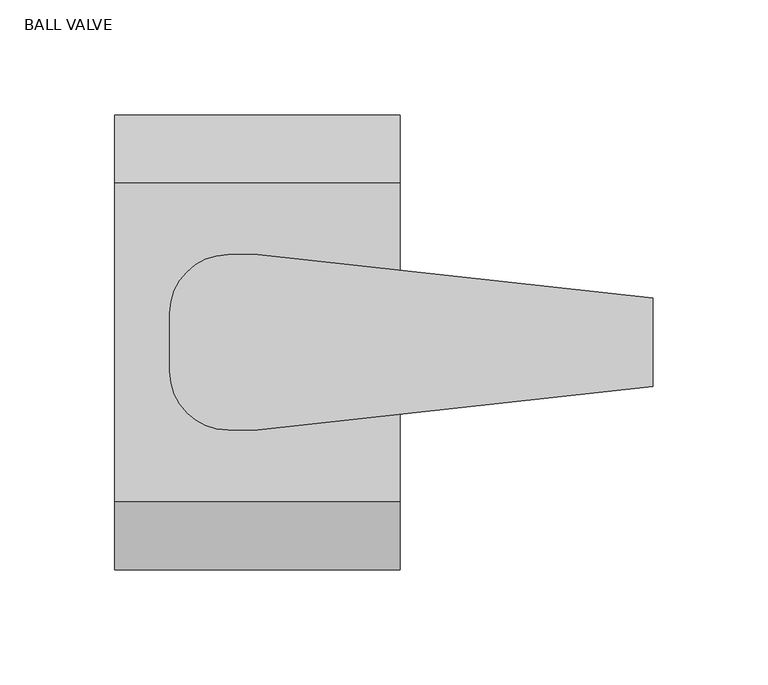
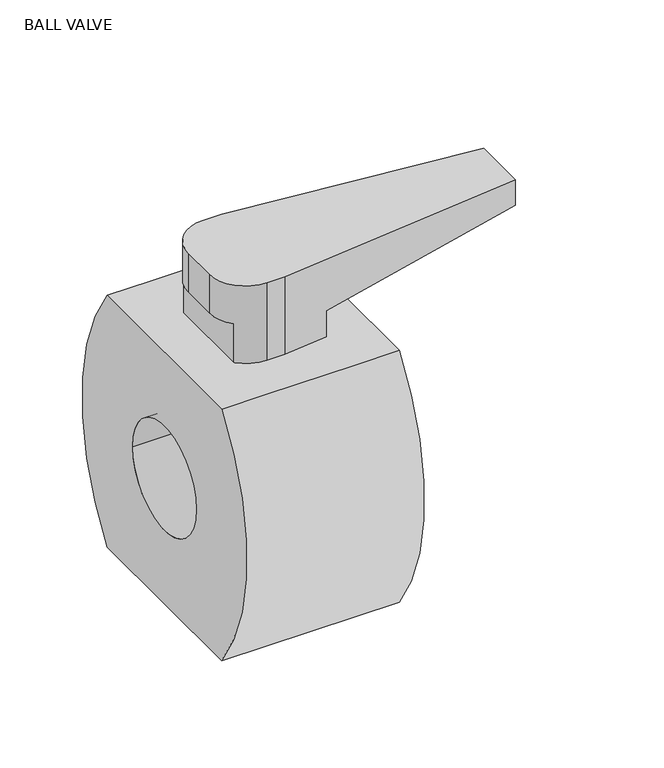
"""IFC4 building model written with IfcOpenShell, lengths in millimetres: valve geometry, Aquatherm - Ball Valve : BALL VALVE."""

from ifc_helpers import new_model, si_unit, frame, origin, place, context, project, spatial, polyline, circle_curve, source, transform, mapped, element, save
from ifc_brep_helpers import plane_surface, cylinder_surface, revolved_surface, advanced_brep


def ball_valve_f9bcd654(model_context):
    return source(origin(), model_context, "Body", "AdvancedBrep", [
        advanced_brep(
        [(0.0, 38.1, 150.114), (-12.70508, 38.1, 150.114), (-38.10508, 12.7, 150.114), (-38.10508, -12.7, 150.114), (-12.70508, -38.1, 150.114), (0.0, -38.1, 150.114), (171.95292, -19.1539441, 150.114), (171.95292, 19.1539441, 150.114), (0.0, -38.1, 92.964), (-12.70508, -38.1, 92.964), (-30.988, -30.3322102, 92.964), (-30.988, 30.3322102, 92.964), (-12.70508, 38.1, 92.964), (0.0, 38.1, 92.964), (30.988, 34.6856911, 92.964), (30.988, -34.6856911, 92.964), (-30.988, 30.3322102, 121.539), (-38.10508, 12.7, 121.539), (-38.10508, -12.7, 121.539), (-30.988, -30.3322102, 121.539), (30.988, -34.6856911, 112.014), (171.95292, -19.1539441, 131.064), (171.95292, 19.1539441, 131.064), (30.988, 34.6856911, 112.014)],
        [
            (0, 1),
            (1, 2, circle_curve(frame((-12.70508, 12.7, 150.114), z_axis=(0.0, 0.0, 1.0), x_axis=(0.0, 1.0, 0.0)), 25.4)),
            (2, 3),
            (3, 4, circle_curve(frame((-12.70508, -12.7, 150.114), z_axis=(0.0, 0.0, 1.0), x_axis=(0.0, 1.0, 0.0)), 25.4)),
            (4, 5),
            (5, 6),
            (6, 7),
            (7, 0),
            (8, 9),
            (9, 10, circle_curve(frame((-12.70508, -12.7, 92.964), z_axis=(0.0, 0.0, -1.0), x_axis=(0.0, 1.0, 0.0)), 25.4)),
            (10, 11),
            (11, 12, circle_curve(frame((-12.70508, 12.7, 92.964), z_axis=(0.0, 0.0, -1.0), x_axis=(0.0, 1.0, 0.0)), 25.4)),
            (12, 13),
            (13, 14),
            (14, 15),
            (15, 8),
            (0, 13),
            (12, 1),
            (11, 16),
            (16, 17, circle_curve(frame((-12.70508, 12.7, 121.539), z_axis=(0.0, 0.0, 1.0), x_axis=(0.0, 1.0, 0.0)), 25.4)),
            (17, 2),
            (17, 18),
            (18, 3),
            (18, 19, circle_curve(frame((-12.70508, -12.7, 121.539), z_axis=(0.0, 0.0, 1.0), x_axis=(0.0, 1.0, 0.0)), 25.4)),
            (19, 10),
            (9, 4),
            (8, 5),
            (15, 20),
            (20, 21),
            (21, 6),
            (21, 22),
            (22, 7),
            (22, 23),
            (23, 14),
            (19, 16),
            (20, 23),
        ],
        [
            plane_surface(frame((-12.70508, 38.1, 150.114), z_axis=(0.0, 0.0, 1.0), x_axis=(-1.0, 0.0, 0.0))),
            plane_surface(frame((-12.70508, 38.1, 92.964), z_axis=(0.0, 0.0, -1.0), x_axis=(1.0, 0.0, 0.0))),
            plane_surface(frame((0.0, 38.1, 150.114), z_axis=(0.0, 1.0, 0.0), x_axis=(0.0, 0.0, -1.0))),
            cylinder_surface(frame((-12.70508, 12.7, 92.964), z_axis=(0.0, 0.0, 1.0), x_axis=(0.0, 1.0, 0.0)), 25.4),
            plane_surface(frame((-38.10508, 12.7, 150.114), z_axis=(-1.0, 0.0, 0.0), x_axis=(0.0, 0.0, -1.0))),
            cylinder_surface(frame((-12.70508, -12.7, 92.964), z_axis=(0.0, 0.0, 1.0), x_axis=(0.0, 1.0, 0.0)), 25.4),
            plane_surface(frame((-12.70508, -38.1, 150.114), z_axis=(0.0, -1.0, 0.0), x_axis=(0.0, 0.0, -1.0))),
            plane_surface(frame((0.0, -38.1, 150.114), z_axis=(0.10951887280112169, -0.9939847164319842, 0.0), x_axis=(0.0, 0.0, -1.0))),
            plane_surface(frame((171.95292, -19.1539441, 150.114), z_axis=(1.0, 0.0, 0.0), x_axis=(0.0, 0.0, -1.0))),
            plane_surface(frame((171.95292, 19.1539441, 150.114), z_axis=(0.10951887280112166, 0.9939847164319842, 0.0), x_axis=(0.0, 0.0, -1.0))),
            plane_surface(frame((-30.988, -304.8, 92.964), z_axis=(-1.0, 0.0, 0.0), x_axis=(0.0, 1.0, 0.0))),
            plane_surface(frame((-30.988, -304.8, 121.539), z_axis=(0.0, 0.0, -1.0), x_axis=(0.0, 1.0, 0.0))),
            plane_surface(frame((171.95292, -304.8, 131.064), z_axis=(0.1339226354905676, 0.0, -0.9909917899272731), x_axis=(0.0, 1.0, 0.0))),
            plane_surface(frame((30.988, -304.8, 112.014), z_axis=(1.0, 0.0, 0.0), x_axis=(0.0, 1.0, 0.0))),
        ],
        [
            (0, [[1, 2, 3, 4, 5, 6, 7, 8]]),
            (1, [[9, 10, 11, 12, 13, 14, 15, 16]]),
            (2, [[-1, 17, -13, 18]]),
            (3, [[-2, -18, -12, 19, 20, 21]]),
            (4, [[-3, -21, 22, 23]]),
            (5, [[-4, -23, 24, 25, -10, 26]]),
            (6, [[-5, -26, -9, 27]]),
            (7, [[-6, -27, -16, 28, 29, 30]]),
            (8, [[-7, -30, 31, 32]]),
            (9, [[-8, -32, 33, 34, -14, -17]]),
            (10, [[35, -19, -11, -25]]),
            (11, [[-35, -24, -22, -20]]),
            (12, [[36, -33, -31, -29]]),
            (13, [[-36, -28, -15, -34]]),
        ],
    ),
        advanced_brep(
        [(61.976, -69.200726, 92.964), (61.976, -69.200726, -92.964), (61.976, 69.200726, -92.964), (61.976, 69.200726, 92.964), (61.976, -38.481, 0.0), (61.976, 38.481, 0.0), (-61.976, -69.200726, 92.964), (-61.976, 69.200726, 92.964), (-61.976, 69.200726, -92.964), (-61.976, -69.200726, -92.964), (-61.976, -38.481, 0.0), (-61.976, 38.481, 0.0), (30.988, 69.200726, 92.964), (-30.988, 69.200726, 92.964), (-30.988, -69.200726, 92.964), (30.988, -69.200726, 92.964)],
        [
            (0, 1, circle_curve(frame((61.976, 57.912, 0.0), z_axis=(1.0, 0.0, 0.0), x_axis=(0.0, 1.0, 0.0)), 157.48)),
            (1, 2),
            (2, 3, circle_curve(frame((61.976, -57.912, 0.0), z_axis=(1.0, 0.0, 0.0), x_axis=(0.0, 1.0, 0.0)), 157.48)),
            (3, 0),
            (4, 5, circle_curve(frame((61.976, 0.0, 0.0), z_axis=(-1.0, 0.0, 0.0), x_axis=(0.0, 1.0, 0.0)), 38.481)),
            (5, 4, circle_curve(frame((61.976, 0.0, 0.0), z_axis=(-1.0, 0.0, 0.0), x_axis=(0.0, 1.0, 0.0)), 38.481)),
            (6, 7),
            (7, 8, circle_curve(frame((-61.976, -57.912, 0.0), z_axis=(-1.0, 0.0, 0.0), x_axis=(0.0, 1.0, 0.0)), 157.48)),
            (8, 9),
            (9, 6, circle_curve(frame((-61.976, 57.912, 0.0), z_axis=(-1.0, 0.0, 0.0), x_axis=(0.0, 1.0, 0.0)), 157.48)),
            (10, 11, circle_curve(frame((-61.976, 0.0, 0.0), z_axis=(1.0, 0.0, 0.0), x_axis=(0.0, 1.0, 0.0)), 38.481)),
            (11, 10, circle_curve(frame((-61.976, 0.0, 0.0), z_axis=(1.0, 0.0, 0.0), x_axis=(0.0, 1.0, 0.0)), 38.481)),
            (1, 9),
            (8, 2),
            (3, 12),
            (12, 13),
            (13, 7),
            (6, 14),
            (14, 15),
            (15, 0),
            (4, 10),
            (11, 5),
        ],
        [
            plane_surface(frame((61.976, 215.392, 0.0), z_axis=(1.0, 0.0, 0.0), x_axis=(0.0, 0.0, 1.0))),
            plane_surface(frame((-61.976, 215.392, 0.0), z_axis=(-1.0, 0.0, 0.0), x_axis=(0.0, 0.0, -1.0))),
            plane_surface(frame((61.976, -69.200726, -92.964), z_axis=(0.0, 0.0, -1.0), x_axis=(-1.0, 0.0, 0.0))),
            plane_surface(frame((61.976, 69.200726, 92.964), z_axis=(0.0, 0.0, 1.0), x_axis=(-1.0, 0.0, 0.0))),
            revolved_surface(polyline([(-61.976, 38.481, 0.0), (61.976, 38.481, 0.0)]), (0.0, 0.0, 0.0), (-1.0, 0.0, 0.0)),
            cylinder_surface(frame((-61.976, 57.912, 0.0), z_axis=(1.0, 0.0, 0.0), x_axis=(0.0, 1.0, 0.0)), 157.48),
            cylinder_surface(frame((-61.976, -57.912, 0.0), z_axis=(1.0, 0.0, 0.0), x_axis=(0.0, 1.0, 0.0)), 157.48),
        ],
        [
            (0, [[1, 2, 3, 4], [5, 6]]),
            (1, [[7, 8, 9, 10], [11, 12]]),
            (2, [[-2, 13, -9, 14]]),
            (3, [[-4, 15, 16, 17, -7, 18, 19, 20]]),
            (4, [[-5, 21, -12, 22]]),
            (4, [[-6, -22, -11, -21]]),
            (5, [[-1, -20, -19, -18, -10, -13]]),
            (6, [[-3, -14, -8, -17, -16, -15]]),
        ],
    ),
    ])


if __name__ == "__main__":
    model = new_model("IFC4")
    model_context = context("Model", 3, world=origin())
    ifc_project = project(units=[si_unit("LENGTHUNIT", "METRE", prefix="MILLI")], contexts=[model_context])
    site = spatial("IfcSite", under=ifc_project)
    building = spatial("IfcBuilding", under=site)
    placement = place(None, origin())
    ball_valve_shape = ball_valve_f9bcd654(model_context)
    element("IfcValve", 1, ObjectType="Aquatherm - Ball Valve : BALL VALVE", at=placement, inside=building, context=model_context, shape_type="MappedRepresentation", body=[
        mapped(ball_valve_shape, transform((0.0, 0.0, 0.0), x_axis=(1.0, 0.0, 0.0), y_axis=(0.0, 1.0, 0.0), z_axis=(0.0, 0.0, 1.0))),
    ])
    save(model, "model.ifc")
